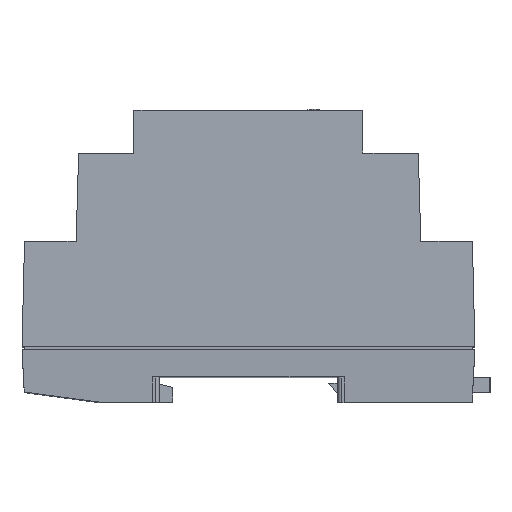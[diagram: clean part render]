
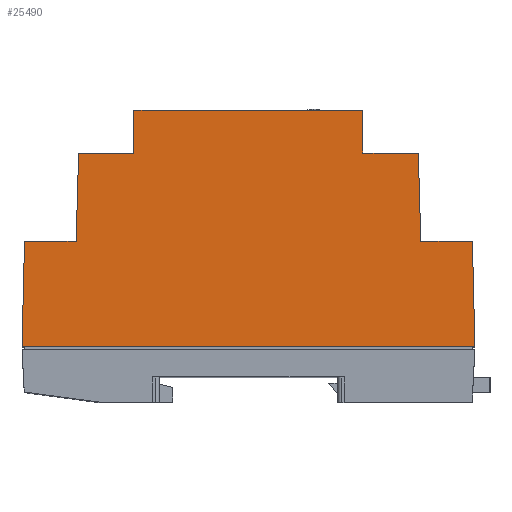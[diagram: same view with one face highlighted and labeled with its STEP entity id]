
A CAD part, top view. The second image highlights one B-rep face of the part: STEP entity #25490.
In plain terms, the highlighted planar face has unit normal (0, 0, 1).
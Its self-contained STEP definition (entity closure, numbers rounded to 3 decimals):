
#1423 = VERTEX_POINT ( 'NONE', #20099 ) ;
#1682 = EDGE_CURVE ( 'NONE', #17613, #10236, #25060, .T. ) ;
#3385 = VERTEX_POINT ( 'NONE', #26912 ) ;
#4107 = CARTESIAN_POINT ( 'NONE',  ( 34.25, 21., 0. ) ) ;
#4281 = EDGE_CURVE ( 'NONE', #8450, #4956, #5627, .T. ) ;
#4956 = VERTEX_POINT ( 'NONE', #37979 ) ;
#5121 = CARTESIAN_POINT ( 'NONE',  ( -22.75, 47., 0. ) ) ;
#5380 = VERTEX_POINT ( 'NONE', #5121 ) ;
#5627 = LINE ( 'NONE', #9625, #22591 ) ;
#6256 = LINE ( 'NONE', #21685, #15245 ) ;
#6395 = DIRECTION ( 'NONE',  ( -0.029, 1., 0. ) ) ;
#6561 = VECTOR ( 'NONE', #8853, 1000. ) ;
#7068 = LINE ( 'NONE', #18168, #16093 ) ;
#7460 = CARTESIAN_POINT ( 'NONE',  ( 22.75, 38.5, 0. ) ) ;
#8450 = VERTEX_POINT ( 'NONE', #27599 ) ;
#8797 = ORIENTED_EDGE ( 'NONE', *, *, #23097, .F. ) ;
#8853 = DIRECTION ( 'NONE',  ( -1., 0., 0. ) ) ;
#9192 = CARTESIAN_POINT ( 'NONE',  ( 45., 0., 0. ) ) ;
#9625 = CARTESIAN_POINT ( 'NONE',  ( -44.5, 21., 0. ) ) ;
#9781 = ORIENTED_EDGE ( 'NONE', *, *, #11222, .T. ) ;
#9899 = DIRECTION ( 'NONE',  ( 1., 0., 0. ) ) ;
#10236 = VERTEX_POINT ( 'NONE', #34953 ) ;
#10671 = VERTEX_POINT ( 'NONE', #33746 ) ;
#10845 = DIRECTION ( 'NONE',  ( 0., 1., 0. ) ) ;
#10967 = DIRECTION ( 'NONE',  ( -1., 0., 0. ) ) ;
#11222 = EDGE_CURVE ( 'NONE', #1423, #37222, #22896, .T. ) ;
#11659 = VECTOR ( 'NONE', #12593, 1000. ) ;
#11829 = EDGE_CURVE ( 'NONE', #3385, #41424, #12738, .T. ) ;
#12593 = DIRECTION ( 'NONE',  ( -0.024, 1., 0. ) ) ;
#12738 = LINE ( 'NONE', #9192, #11659 ) ;
#14869 = EDGE_CURVE ( 'NONE', #10671, #8450, #42206, .T. ) ;
#14923 = CARTESIAN_POINT ( 'NONE',  ( -45., 0., 0. ) ) ;
#15245 = VECTOR ( 'NONE', #41767, 1000. ) ;
#16093 = VECTOR ( 'NONE', #21566, 1000. ) ;
#16494 = VECTOR ( 'NONE', #34890, 1000. ) ;
#17613 = VERTEX_POINT ( 'NONE', #4107 ) ;
#18168 = CARTESIAN_POINT ( 'NONE',  ( -33.75, 38.5, 0. ) ) ;
#18333 = FACE_OUTER_BOUND ( 'NONE', #29331, .T. ) ;
#19373 = ORIENTED_EDGE ( 'NONE', *, *, #1682, .T. ) ;
#19990 = LINE ( 'NONE', #26975, #37761 ) ;
#20099 = CARTESIAN_POINT ( 'NONE',  ( 22.75, 38.5, 0. ) ) ;
#20109 = DIRECTION ( 'NONE',  ( -1., 0., 0. ) ) ;
#20161 = CARTESIAN_POINT ( 'NONE',  ( 44.5, 21., 0. ) ) ;
#20252 = CARTESIAN_POINT ( 'NONE',  ( 0., 0., 0. ) ) ;
#21087 = PLANE ( 'NONE',  #41606 ) ;
#21272 = ORIENTED_EDGE ( 'NONE', *, *, #26129, .T. ) ;
#21566 = DIRECTION ( 'NONE',  ( 1., 0., 0. ) ) ;
#21685 = CARTESIAN_POINT ( 'NONE',  ( -22.75, 38.5, 0. ) ) ;
#22591 = VECTOR ( 'NONE', #9899, 1000. ) ;
#22896 = LINE ( 'NONE', #7460, #39621 ) ;
#23097 = EDGE_CURVE ( 'NONE', #4956, #33439, #28375, .T. ) ;
#23437 = CARTESIAN_POINT ( 'NONE',  ( -22.75, 38.5, 0. ) ) ;
#24449 = CARTESIAN_POINT ( 'NONE',  ( 0., 47., 0. ) ) ;
#25060 = LINE ( 'NONE', #31753, #42925 ) ;
#25333 = EDGE_CURVE ( 'NONE', #41424, #17613, #19990, .T. ) ;
#25469 = VECTOR ( 'NONE', #39714, 1000. ) ;
#25490 = ADVANCED_FACE ( 'NONE', ( #18333 ), #21087, .F. ) ;
#25873 = ORIENTED_EDGE ( 'NONE', *, *, #31115, .F. ) ;
#26129 = EDGE_CURVE ( 'NONE', #10236, #1423, #43470, .T. ) ;
#26912 = CARTESIAN_POINT ( 'NONE',  ( 45., 0., 0. ) ) ;
#26975 = CARTESIAN_POINT ( 'NONE',  ( 44.5, 21., 0. ) ) ;
#27346 = VECTOR ( 'NONE', #30372, 1000. ) ;
#27599 = CARTESIAN_POINT ( 'NONE',  ( -44.5, 21., 0. ) ) ;
#27697 = ORIENTED_EDGE ( 'NONE', *, *, #4281, .F. ) ;
#27967 = VECTOR ( 'NONE', #33684, 1000. ) ;
#27981 = EDGE_CURVE ( 'NONE', #10671, #3385, #37902, .T. ) ;
#28375 = LINE ( 'NONE', #40329, #27346 ) ;
#29331 = EDGE_LOOP ( 'NONE', ( #35198, #25873, #30108, #8797, #27697, #37185, #33363, #32653, #43331, #19373, #21272, #9781 ) ) ;
#30108 = ORIENTED_EDGE ( 'NONE', *, *, #39988, .F. ) ;
#30372 = DIRECTION ( 'NONE',  ( 0.029, 1., 0. ) ) ;
#31115 = EDGE_CURVE ( 'NONE', #42521, #5380, #6256, .T. ) ;
#31158 = CARTESIAN_POINT ( 'NONE',  ( -33.75, 38.5, 0. ) ) ;
#31179 = DIRECTION ( 'NONE',  ( 0., 0., -1. ) ) ;
#31753 = CARTESIAN_POINT ( 'NONE',  ( 34.25, 21., 0. ) ) ;
#32653 = ORIENTED_EDGE ( 'NONE', *, *, #11829, .T. ) ;
#33363 = ORIENTED_EDGE ( 'NONE', *, *, #27981, .T. ) ;
#33439 = VERTEX_POINT ( 'NONE', #31158 ) ;
#33684 = DIRECTION ( 'NONE',  ( 1., 0., 0. ) ) ;
#33746 = CARTESIAN_POINT ( 'NONE',  ( -45., 0., 0. ) ) ;
#34213 = EDGE_CURVE ( 'NONE', #37222, #5380, #34344, .T. ) ;
#34344 = LINE ( 'NONE', #36323, #25469 ) ;
#34890 = DIRECTION ( 'NONE',  ( 0.024, 1., 0. ) ) ;
#34953 = CARTESIAN_POINT ( 'NONE',  ( 33.75, 38.5, 0. ) ) ;
#35198 = ORIENTED_EDGE ( 'NONE', *, *, #34213, .T. ) ;
#36323 = CARTESIAN_POINT ( 'NONE',  ( 0., 47., 0. ) ) ;
#37185 = ORIENTED_EDGE ( 'NONE', *, *, #14869, .F. ) ;
#37222 = VERTEX_POINT ( 'NONE', #40449 ) ;
#37761 = VECTOR ( 'NONE', #20109, 1000. ) ;
#37902 = LINE ( 'NONE', #20252, #27967 ) ;
#37979 = CARTESIAN_POINT ( 'NONE',  ( -34.25, 21., 0. ) ) ;
#39621 = VECTOR ( 'NONE', #10845, 1000. ) ;
#39714 = DIRECTION ( 'NONE',  ( -1., 0., 0. ) ) ;
#39988 = EDGE_CURVE ( 'NONE', #33439, #42521, #7068, .T. ) ;
#40329 = CARTESIAN_POINT ( 'NONE',  ( -34.25, 21., 0. ) ) ;
#40449 = CARTESIAN_POINT ( 'NONE',  ( 22.75, 47., 0. ) ) ;
#41424 = VERTEX_POINT ( 'NONE', #20161 ) ;
#41606 = AXIS2_PLACEMENT_3D ( 'NONE', #24449, #31179, #10967 ) ;
#41767 = DIRECTION ( 'NONE',  ( 0., 1., 0. ) ) ;
#42206 = LINE ( 'NONE', #14923, #16494 ) ;
#42426 = CARTESIAN_POINT ( 'NONE',  ( 33.75, 38.5, 0. ) ) ;
#42521 = VERTEX_POINT ( 'NONE', #23437 ) ;
#42925 = VECTOR ( 'NONE', #6395, 1000. ) ;
#43331 = ORIENTED_EDGE ( 'NONE', *, *, #25333, .T. ) ;
#43470 = LINE ( 'NONE', #42426, #6561 ) ;
